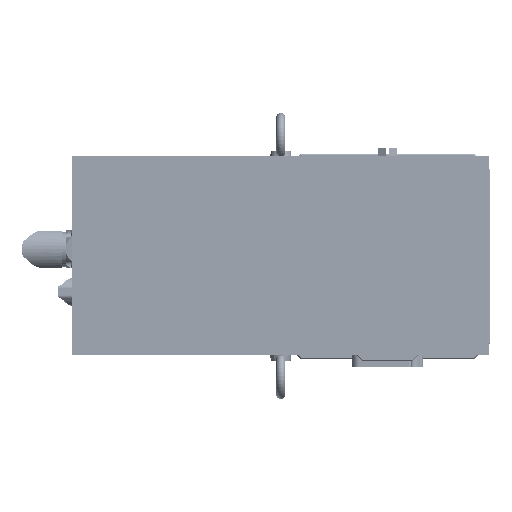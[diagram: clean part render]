
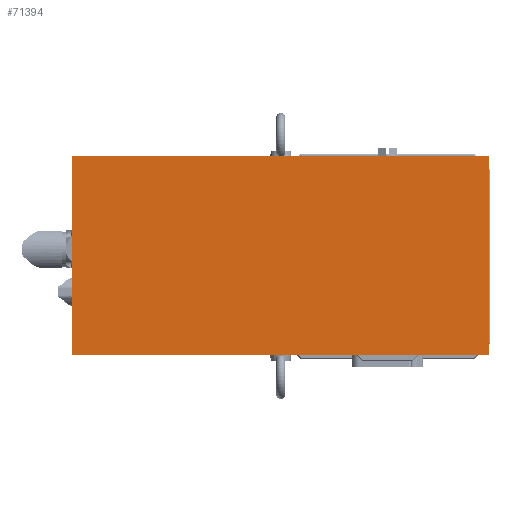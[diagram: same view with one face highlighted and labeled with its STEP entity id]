
A CAD part, top view. The second image highlights one B-rep face of the part: STEP entity #71394.
In plain terms, the highlighted planar face has unit normal (0, 0, 1).
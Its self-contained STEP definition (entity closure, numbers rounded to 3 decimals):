
#71355=CARTESIAN_POINT('',(-75.5,-77.,621.));
#71356=DIRECTION('',(0.,-1.,0.));
#71357=DIRECTION('',(-0.,0.,1.));
#71358=AXIS2_PLACEMENT_3D('',#71355,#71357,#71356);
#71359=PLANE('',#71358);
#71360=CARTESIAN_POINT('',(72.,70.5,621.));
#71361=VERTEX_POINT('',#71360);
#71362=CARTESIAN_POINT('',(-223.,70.5,621.));
#71363=VERTEX_POINT('',#71362);
#71364=CARTESIAN_POINT('',(72.,70.5,621.));
#71365=DIRECTION('',(-1.,0.,0.));
#71366=VECTOR('',#71365,295.);
#71367=LINE('',#71364,#71366);
#71368=EDGE_CURVE('',#71361,#71363,#71367,.T.);
#71369=ORIENTED_EDGE('E1',*,*,#71368,.T.);
#71370=CARTESIAN_POINT('',(-223.,-70.5,621.));
#71371=VERTEX_POINT('',#71370);
#71372=CARTESIAN_POINT('',(-223.,70.5,621.));
#71373=DIRECTION('',(0.,-1.,0.));
#71374=VECTOR('',#71373,141.);
#71375=LINE('',#71372,#71374);
#71376=EDGE_CURVE('',#71363,#71371,#71375,.T.);
#71377=ORIENTED_EDGE('E2',*,*,#71376,.T.);
#71378=CARTESIAN_POINT('',(72.,-70.5,621.));
#71379=VERTEX_POINT('',#71378);
#71380=CARTESIAN_POINT('',(-223.,-70.5,621.));
#71381=DIRECTION('',(1.,0.,0.));
#71382=VECTOR('',#71381,295.);
#71383=LINE('',#71380,#71382);
#71384=EDGE_CURVE('',#71371,#71379,#71383,.T.);
#71385=ORIENTED_EDGE('E3',*,*,#71384,.T.);
#71386=CARTESIAN_POINT('',(72.,-70.5,621.));
#71387=DIRECTION('',(0.,1.,0.));
#71388=VECTOR('',#71387,141.);
#71389=LINE('',#71386,#71388);
#71390=EDGE_CURVE('',#71379,#71361,#71389,.T.);
#71391=ORIENTED_EDGE('E4',*,*,#71390,.T.);
#71392=EDGE_LOOP('',(#71369,#71377,#71385,#71391));
#71393=FACE_OUTER_BOUND('',#71392,.T.);
#71394=ADVANCED_FACE('F1',(#71393),#71359,.T.);
